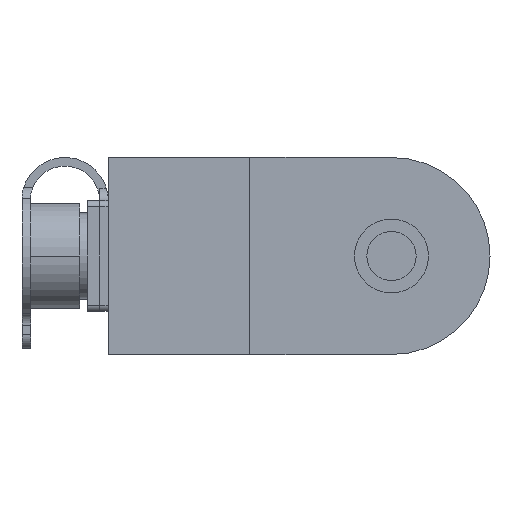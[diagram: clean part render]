
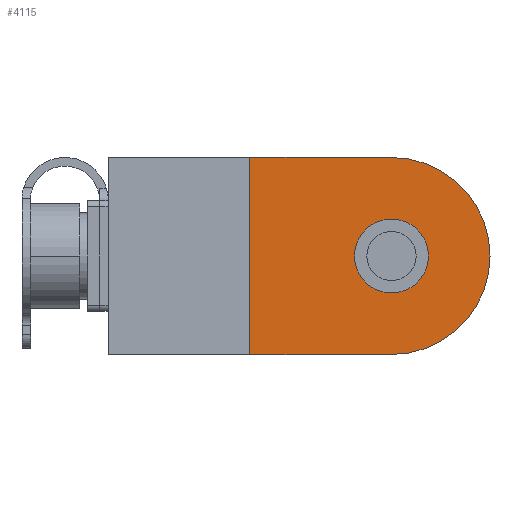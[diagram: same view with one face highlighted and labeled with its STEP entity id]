
A CAD part, left-side view. The second image highlights one B-rep face of the part: STEP entity #4115.
In plain terms, the highlighted planar face has unit normal (-1, 0, 0).
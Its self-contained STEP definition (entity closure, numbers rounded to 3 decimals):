
#57 = VECTOR ( 'NONE', #2433, 1000. ) ;
#175 = ORIENTED_EDGE ( 'NONE', *, *, #4989, .T. ) ;
#228 = EDGE_CURVE ( 'NONE', #1371, #3078, #5870, .T. ) ;
#235 = DIRECTION ( 'NONE',  ( 0., -1., 0. ) ) ;
#254 = VERTEX_POINT ( 'NONE', #4619 ) ;
#314 = DIRECTION ( 'NONE',  ( 0., 0., -1. ) ) ;
#490 = DIRECTION ( 'NONE',  ( -1., 0., 0. ) ) ;
#733 = FACE_BOUND ( 'NONE', #1904, .T. ) ;
#747 = DIRECTION ( 'NONE',  ( -1., 0., 0. ) ) ;
#966 = AXIS2_PLACEMENT_3D ( 'NONE', #3050, #6658, #3561 ) ;
#1056 = ORIENTED_EDGE ( 'NONE', *, *, #4467, .F. ) ;
#1203 = AXIS2_PLACEMENT_3D ( 'NONE', #3837, #747, #4362 ) ;
#1268 = VECTOR ( 'NONE', #235, 1000. ) ;
#1371 = VERTEX_POINT ( 'NONE', #2620 ) ;
#1427 = LINE ( 'NONE', #5039, #57 ) ;
#1459 = PLANE ( 'NONE',  #966 ) ;
#1473 = CARTESIAN_POINT ( 'NONE',  ( -24.5, 0., 0. ) ) ;
#1578 = ORIENTED_EDGE ( 'NONE', *, *, #2044, .T. ) ;
#1644 = ORIENTED_EDGE ( 'NONE', *, *, #2174, .T. ) ;
#1654 = EDGE_CURVE ( 'NONE', #5586, #2262, #1803, .T. ) ;
#1734 = EDGE_LOOP ( 'NONE', ( #175, #3641, #1644, #1056, #4157 ) ) ;
#1803 = CIRCLE ( 'NONE', #5414, 6. ) ;
#1810 = CARTESIAN_POINT ( 'NONE',  ( -24.5, 39., 16. ) ) ;
#1904 = EDGE_LOOP ( 'NONE', ( #1578, #4588 ) ) ;
#2044 = EDGE_CURVE ( 'NONE', #2262, #5586, #2130, .T. ) ;
#2130 = CIRCLE ( 'NONE', #4449, 6. ) ;
#2174 = EDGE_CURVE ( 'NONE', #3078, #2859, #5280, .T. ) ;
#2176 = CARTESIAN_POINT ( 'NONE',  ( -24.5, 16., 0. ) ) ;
#2262 = VERTEX_POINT ( 'NONE', #2348 ) ;
#2348 = CARTESIAN_POINT ( 'NONE',  ( -24.5, 16., -6. ) ) ;
#2433 = DIRECTION ( 'NONE',  ( 0., 0., 1. ) ) ;
#2620 = CARTESIAN_POINT ( 'NONE',  ( -24.5, 16., -16. ) ) ;
#2700 = DIRECTION ( 'NONE',  ( 0., 0., -1. ) ) ;
#2859 = VERTEX_POINT ( 'NONE', #5972 ) ;
#3050 = CARTESIAN_POINT ( 'NONE',  ( -24.5, 39., -16. ) ) ;
#3078 = VERTEX_POINT ( 'NONE', #1473 ) ;
#3195 = AXIS2_PLACEMENT_3D ( 'NONE', #3578, #490, #4095 ) ;
#3324 = CARTESIAN_POINT ( 'NONE',  ( -24.5, 39., -16. ) ) ;
#3404 = DIRECTION ( 'NONE',  ( 1., 0., 0. ) ) ;
#3490 = FACE_OUTER_BOUND ( 'NONE', #1734, .T. ) ;
#3561 = DIRECTION ( 'NONE',  ( 0., 0., -1. ) ) ;
#3578 = CARTESIAN_POINT ( 'NONE',  ( -24.5, 16., 0. ) ) ;
#3641 = ORIENTED_EDGE ( 'NONE', *, *, #228, .T. ) ;
#3837 = CARTESIAN_POINT ( 'NONE',  ( -24.5, 16., 0. ) ) ;
#3863 = DIRECTION ( 'NONE',  ( 0., -1., 0. ) ) ;
#4015 = LINE ( 'NONE', #3324, #1268 ) ;
#4095 = DIRECTION ( 'NONE',  ( 0., 0., -1. ) ) ;
#4115 = ADVANCED_FACE ( 'NONE', ( #3490, #733 ), #1459, .F. ) ;
#4157 = ORIENTED_EDGE ( 'NONE', *, *, #6414, .F. ) ;
#4362 = DIRECTION ( 'NONE',  ( 0., 0., -1. ) ) ;
#4449 = AXIS2_PLACEMENT_3D ( 'NONE', #2176, #5788, #2700 ) ;
#4467 = EDGE_CURVE ( 'NONE', #254, #2859, #5265, .T. ) ;
#4588 = ORIENTED_EDGE ( 'NONE', *, *, #1654, .T. ) ;
#4614 = CARTESIAN_POINT ( 'NONE',  ( -24.5, 39., -16. ) ) ;
#4619 = CARTESIAN_POINT ( 'NONE',  ( -24.5, 39., 16. ) ) ;
#4989 = EDGE_CURVE ( 'NONE', #5933, #1371, #4015, .T. ) ;
#5039 = CARTESIAN_POINT ( 'NONE',  ( -24.5, 39., -16. ) ) ;
#5265 = LINE ( 'NONE', #1810, #6467 ) ;
#5280 = CIRCLE ( 'NONE', #1203, 16. ) ;
#5327 = CARTESIAN_POINT ( 'NONE',  ( -24.5, 16., 6. ) ) ;
#5414 = AXIS2_PLACEMENT_3D ( 'NONE', #6495, #3404, #314 ) ;
#5586 = VERTEX_POINT ( 'NONE', #5327 ) ;
#5788 = DIRECTION ( 'NONE',  ( 1., 0., 0. ) ) ;
#5870 = CIRCLE ( 'NONE', #3195, 16. ) ;
#5933 = VERTEX_POINT ( 'NONE', #4614 ) ;
#5972 = CARTESIAN_POINT ( 'NONE',  ( -24.5, 16., 16. ) ) ;
#6414 = EDGE_CURVE ( 'NONE', #5933, #254, #1427, .T. ) ;
#6467 = VECTOR ( 'NONE', #3863, 1000. ) ;
#6495 = CARTESIAN_POINT ( 'NONE',  ( -24.5, 16., 0. ) ) ;
#6658 = DIRECTION ( 'NONE',  ( 1., 0., 0. ) ) ;
